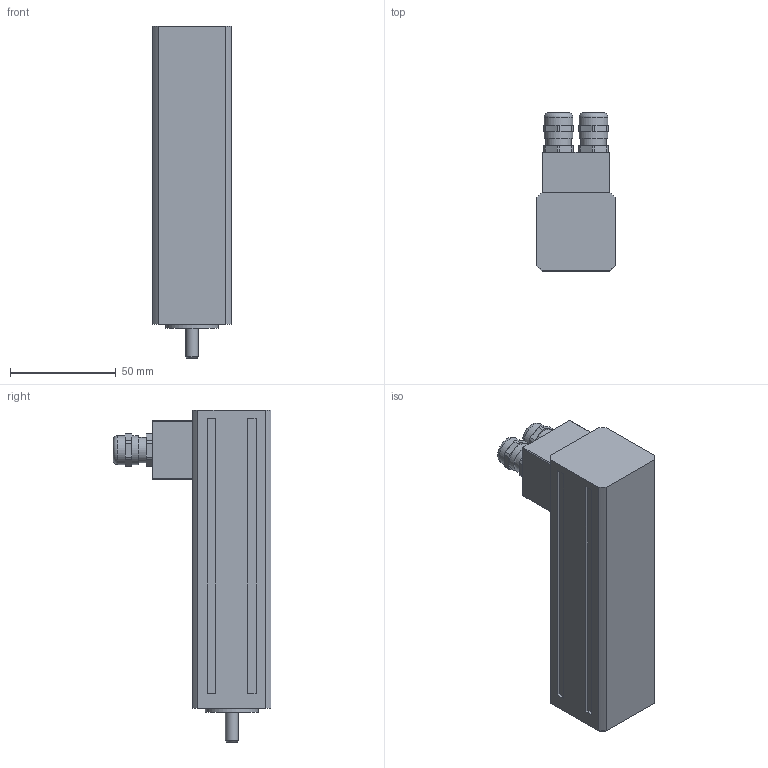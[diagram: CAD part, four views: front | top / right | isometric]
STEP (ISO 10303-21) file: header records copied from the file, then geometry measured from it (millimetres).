
FILE_DESCRIPTION((''),'2;1');
FILE_NAME('V:\katalog\3D_modely\T\Ruzne\STEP\T1000 00_0030 B Z.stp','2010-11-08T09:08:27',('oslejsek'),(''),'Autodesk Inventor 10','Autodesk Inventor 10','');
FILE_SCHEMA(('AUTOMOTIVE_DESIGN { 1 0 10303 214 1 1 1 1 }'));
Length unit declared in the file: millimetre
Products named in the file (4): T1000 00_0030 B Z; T1000 00_0030 B; pruchodka_spodek; pruchodka_vrch
Assembly tree (5 placements, depth 2):
  T1000 00_0030 B Z
    T1000 00_0030 B
    pruchodka_spodek  x2
    pruchodka_vrch  x2
Bounding box: 37 x 74.6 x 157 mm (x, y, z)
Volume: 208885.6 mm3; surface area: 32499.7 mm2
Topology: 5 solids, 5 shells, 150 faces, 358 edges, 241 vertices
Faces by surface type: plane 79, cylinder 48, bspline 20, torus 2, cone 1
Full cylindrical faces by diameter (mm): 6 x1, 7 x2, 8 x1, 10 x2, 12 x4, 13.6 x4, 14 x1, 25 x1
Entity records: 3098 total; most frequent: CARTESIAN_POINT 718, DIRECTION 484, ORIENTED_EDGE 416, EDGE_CURVE 208, AXIS2_PLACEMENT_3D 178, VERTEX_POINT 152, EDGE_LOOP 152, VECTOR 128
